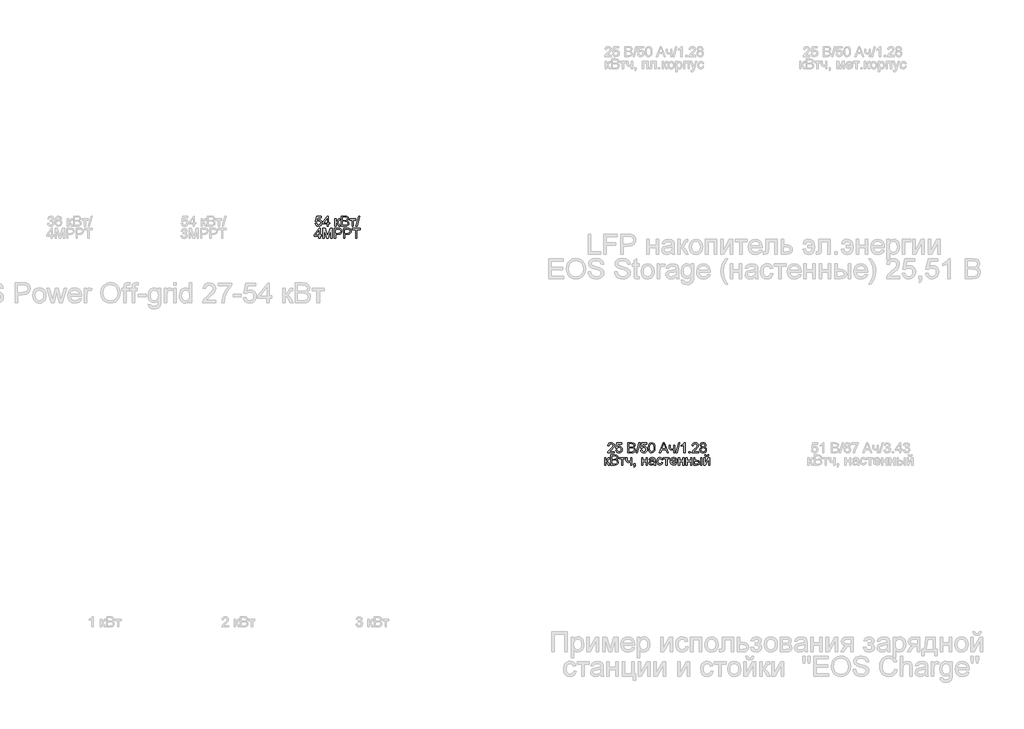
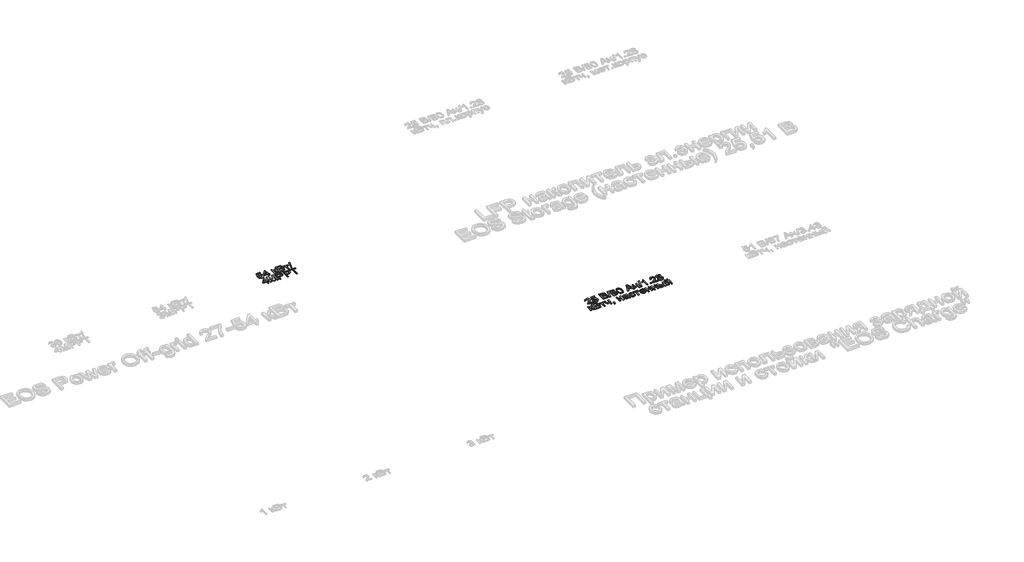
# One storey, part 14 of 26: 2 proxies.
"""IFC4 building model written with IfcOpenShell, lengths in millimetres."""

from ifc_helpers import new_model, si_unit, origin, origin_with_axes, place, context, project, spatial, polyline, outline, extrude, element, save

model = new_model("IFC4")

# Units and contexts
model_context = context("Model", 3, world=origin())
ifc_project = project(units=[si_unit("LENGTHUNIT", "METRE", prefix="MILLI")], contexts=[model_context])

# Site, building, storey
site = spatial("IfcSite", under=ifc_project)
building = spatial("IfcBuilding", under=site)
storey = spatial("IfcBuildingStorey", under=building, Name="Этаж 01", Elevation=0.0)

# Proxies
placement = place(None, origin())
element("IfcBuildingElementProxy", 1, Name="75 мм Arial", ObjectType="75 мм Arial", at=placement, inside=storey, context=model_context, shape_type="SweptSolid", body=[
    extrude(outline(polyline([(12207.5585542, -16641.5042258), (12216.9763333, -16640.3270034), (12221.722011, -16650.029891), (12231.5628544, -16653.2764496), (12243.3718664, -16648.7606981), (12247.5841153, -16636.7769421), (12243.6385809, -16625.5933295), (12231.7100072, -16621.4914452), (12223.4418593, -16623.1285201), (12218.1535557, -16627.3775572), (12208.7357766, -16626.2003348), (12216.9763333, -16587.3519961), (12253.4702272, -16587.3519961), (12253.4702272, -16596.7697752), (12224.5914906, -16596.7697752), (12220.5631827, -16617.5183197), (12234.3403634, -16612.0736662), (12243.1396409, -16613.7613248), (12250.4443978, -16618.8243008), (12255.3625202, -16626.5406256), (12257.0018943, -16636.188331), (12255.5257678, -16645.60611), (12251.0973883, -16653.6627257), (12242.6177083, -16660.436353), (12231.5260662, -16662.6942287), (12222.2761333, -16661.2433941), (12214.9069971, -16656.8908902), (12209.8555174, -16650.1425549), (12207.5585542, -16641.5042258)])), origin_with_axes(), (0.0, 0.0, 1.0), 5.0),
    extrude(outline(polyline([(12295.850233, -16661.5170063), (12295.850233, -16643.8586706), (12261.7107839, -16643.8586706), (12261.7107839, -16634.4408915), (12298.2046778, -16587.3519961), (12305.2680121, -16587.3519961), (12305.2680121, -16634.4408915), (12314.6857912, -16634.4408915), (12314.6857912, -16643.8586706), (12305.2680121, -16643.8586706), (12305.2680121, -16661.5170063), (12295.850233, -16661.5170063)]), holes=[polyline([(12295.850233, -16634.4408915), (12295.850233, -16605.3414257), (12273.2990667, -16634.4408915), (12295.850233, -16634.4408915)])]), origin_with_axes(), (0.0, 0.0, 1.0), 5.0),
    extrude(outline(polyline([(12354.7113523, -16606.1875542), (12364.1291313, -16606.1875542), (12364.1291313, -16629.7320019), (12370.4383076, -16628.0397448), (12375.6070496, -16618.1805073), (12379.9020719, -16609.6732362), (12383.6912564, -16606.9049241), (12390.5798468, -16606.1875542), (12392.3824686, -16606.1875542), (12392.3824686, -16615.6605156), (12389.8440828, -16615.6053333), (12385.2455579, -16616.5986147), (12382.0081963, -16622.7974263), (12378.2098147, -16629.5020757), (12372.8847228, -16632.7854225), (12384.6569467, -16644.1713703), (12394.7369133, -16661.5170063), (12384.0315473, -16661.5170063), (12374.1539157, -16644.5392522), (12369.1875088, -16637.3563563), (12364.1291313, -16635.6181139), (12364.1291313, -16661.5170063), (12354.7113523, -16661.5170063), (12354.7113523, -16606.1875542)])), origin_with_axes(), (0.0, 0.0, 1.0), 5.0),
    extrude(outline(polyline([(12401.8002476, -16661.5170063), (12401.8002476, -16586.1747737), (12430.5502256, -16586.1747737), (12444.6309089, -16588.3912627), (12452.945042, -16595.2062767), (12455.9524773, -16604.844785), (12453.4232886, -16613.6463617), (12445.7805402, -16620.3142229), (12455.0603635, -16627.340769), (12458.3069221, -16639.0578105), (12456.0904331, -16649.1837624), (12450.5997943, -16656.3942495), (12442.4052229, -16660.2202223), (12430.3294964, -16661.5170063), (12401.8002476, -16661.5170063)]), holes=[polyline([(12411.2180267, -16616.7825557), (12428.41651, -16616.7825557), (12438.4596885, -16615.9732153), (12444.5021502, -16612.4875334), (12446.5346983, -16606.3531011), (12444.640106, -16600.2094718), (12439.2138466, -16596.5766371), (12427.1105289, -16595.5925528), (12411.2180267, -16595.5925528), (12411.2180267, -16616.7825557)]), polyline([(12411.2180267, -16652.0992272), (12430.5318315, -16652.0992272), (12437.5215894, -16651.7313453), (12443.4352925, -16649.6804031), (12447.3532357, -16645.4957454), (12448.889143, -16639.149781), (12447.0865213, -16631.8289293), (12441.2463946, -16627.4603306), (12429.6121265, -16626.2003348), (12411.2180267, -16626.2003348), (12411.2180267, -16652.0992272)])]), origin_with_axes(), (0.0, 0.0, 1.0), 5.0),
    extrude(outline(polyline([(12465.3702564, -16606.1875542), (12510.104707, -16606.1875542), (12510.104707, -16615.6053333), (12492.4463713, -16615.6053333), (12492.4463713, -16661.5170063), (12483.0285922, -16661.5170063), (12483.0285922, -16615.6053333), (12465.3702564, -16615.6053333), (12465.3702564, -16606.1875542)])), origin_with_axes(), (0.0, 0.0, 1.0), 5.0),
    extrude(outline(polyline([(12511.2819294, -16661.5170063), (12532.4719323, -16586.1747737), (12540.9700064, -16586.1747737), (12519.7800035, -16661.5170063), (12511.2819294, -16661.5170063)])), origin_with_axes(), (0.0, 0.0, 1.0), 5.0),
    extrude(outline(polyline([(12234.0460578, -16752.9981197), (12234.0460578, -16735.3397839), (12199.9066087, -16735.3397839), (12199.9066087, -16725.9220049), (12236.4005026, -16678.8331095), (12243.4638369, -16678.8331095), (12243.4638369, -16725.9220049), (12252.881616, -16725.9220049), (12252.881616, -16735.3397839), (12243.4638369, -16735.3397839), (12243.4638369, -16752.9981197), (12234.0460578, -16752.9981197)]), holes=[polyline([(12234.0460578, -16725.9220049), (12234.0460578, -16696.822539), (12211.4948915, -16725.9220049), (12234.0460578, -16725.9220049)])]), origin_with_axes(), (0.0, 0.0, 1.0), 5.0),
    extrude(outline(polyline([(12264.6538398, -16752.9981197), (12264.6538398, -16677.6558871), (12280.8590417, -16677.6558871), (12296.2732973, -16730.7596531), (12299.3819002, -16741.8512953), (12302.7480204, -16729.8399481), (12317.9047586, -16677.6558871), (12334.1099605, -16677.6558871), (12334.1099605, -16752.9981197), (12324.6921815, -16752.9981197), (12324.6921815, -16687.0736662), (12305.7646528, -16752.9981197), (12292.9991476, -16752.9981197), (12274.0716189, -16687.0736662), (12274.0716189, -16752.9981197), (12264.6538398, -16752.9981197)])), origin_with_axes(), (0.0, 0.0, 1.0), 5.0),
    extrude(outline(polyline([(12350.5910739, -16752.9981197), (12350.5910739, -16677.6558871), (12378.5133174, -16677.6558871), (12389.7705064, -16678.373257), (12398.921571, -16681.8957271), (12404.8536682, -16689.1797906), (12407.0977484, -16699.4528953), (12405.5825344, -16708.332647), (12401.0368925, -16715.7316736), (12392.5365192, -16720.7256717), (12379.1571108, -16722.3903377), (12360.008853, -16722.3903377), (12360.008853, -16752.9981197), (12350.5910739, -16752.9981197)]), holes=[polyline([(12360.008853, -16712.9725586), (12379.7089338, -16712.9725586), (12393.5780851, -16709.5144679), (12397.6799693, -16699.7839891), (12395.2611452, -16691.9848908), (12388.9059837, -16687.7174597), (12379.4882046, -16687.0736662), (12360.008853, -16687.0736662), (12360.008853, -16712.9725586)])]), origin_with_axes(), (0.0, 0.0, 1.0), 5.0),
    extrude(outline(polyline([(12420.0471946, -16752.9981197), (12420.0471946, -16677.6558871), (12447.969438, -16677.6558871), (12459.2266271, -16678.373257), (12468.3776917, -16681.8957271), (12474.3097889, -16689.1797906), (12476.5538691, -16699.4528953), (12475.0386551, -16708.332647), (12470.4930132, -16715.7316736), (12461.9926398, -16720.7256717), (12448.6132315, -16722.3903377), (12429.4649737, -16722.3903377), (12429.4649737, -16752.9981197), (12420.0471946, -16752.9981197)]), holes=[polyline([(12429.4649737, -16712.9725586), (12449.1650545, -16712.9725586), (12463.0342057, -16709.5144679), (12467.13609, -16699.7839891), (12464.7172659, -16691.9848908), (12458.3621044, -16687.7174597), (12448.9443253, -16687.0736662), (12429.4649737, -16687.0736662), (12429.4649737, -16712.9725586)])]), origin_with_axes(), (0.0, 0.0, 1.0), 5.0),
    extrude(outline(polyline([(12508.3388735, -16752.9981197), (12508.3388735, -16687.0736662), (12483.6172034, -16687.0736662), (12483.6172034, -16677.6558871), (12542.4783226, -16677.6558871), (12542.4783226, -16687.0736662), (12517.7566525, -16687.0736662), (12517.7566525, -16752.9981197), (12508.3388735, -16752.9981197)])), origin_with_axes(), (0.0, 0.0, 1.0), 5.0),
])
element("IfcBuildingElementProxy", 2, Name="75 мм Arial", ObjectType="75 мм Arial", at=placement, inside=storey, context=model_context, shape_type="SweptSolid", body=[
    extrude(outline(polyline([(14443.1901427, -18345.2842708), (14443.1901427, -18354.7020499), (14393.7468026, -18354.7020499), (14394.7584781, -18348.2089327), (14400.4790431, -18338.2117395), (14412.269661, -18327.2948413), (14428.5300452, -18311.6046742), (14432.5951413, -18300.9360963), (14428.7599715, -18292.3000665), (14418.7443842, -18288.7775964), (14408.3057325, -18292.217293), (14404.341804, -18301.7270426), (14394.924025, -18300.5498202), (14397.2071926, -18291.4401423), (14402.1437091, -18284.7860767), (14409.4760571, -18280.7163821), (14418.9467193, -18279.3598173), (14428.4863592, -18280.8681335), (14435.8049117, -18285.393082), (14440.4609182, -18292.1529137), (14442.0129204, -18300.3658792), (14440.3390573, -18309.2962146), (14434.7748421, -18318.5300527), (14421.2827699, -18331.4335137), (14410.4486452, -18340.4926078), (14406.1996081, -18345.2842708), (14443.1901427, -18345.2842708)])), origin_with_axes(), (0.0, 0.0, 1.0), 5.0),
    extrude(outline(polyline([(14452.6079218, -18334.6892694), (14462.0257009, -18333.512047), (14466.7713786, -18343.2149346), (14476.612222, -18346.4614932), (14488.421234, -18341.9457417), (14492.6334829, -18329.9619857), (14488.6879485, -18318.7783731), (14476.7593748, -18314.6764888), (14468.491227, -18316.3135637), (14463.2029233, -18320.5626007), (14453.7851442, -18319.3853784), (14462.0257009, -18280.5370397), (14498.5195948, -18280.5370397), (14498.5195948, -18289.9548187), (14469.6408582, -18289.9548187), (14465.6125503, -18310.7033633), (14479.3897311, -18305.2587097), (14488.1890085, -18306.9463684), (14495.4937654, -18312.0093444), (14500.4118878, -18319.7256692), (14502.051262, -18329.3733745), (14500.5751355, -18338.7911536), (14496.1467559, -18346.8477693), (14487.667076, -18353.6213965), (14476.5754338, -18355.8792723), (14467.3255009, -18354.4284377), (14459.9563647, -18350.0759338), (14454.904885, -18343.3275985), (14452.6079218, -18334.6892694)])), origin_with_axes(), (0.0, 0.0, 1.0), 5.0),
    extrude(outline(polyline([(14543.2540454, -18354.7020499), (14543.2540454, -18279.3598173), (14572.0040233, -18279.3598173), (14586.0847067, -18281.5763063), (14594.3988398, -18288.3913203), (14597.4062751, -18298.0298285), (14594.8770864, -18306.8314053), (14587.2343379, -18313.4992664), (14596.5141613, -18320.5258125), (14599.7607199, -18332.2428541), (14597.5442309, -18342.368806), (14592.0535921, -18349.5792931), (14583.8590206, -18353.4052659), (14571.7832942, -18354.7020499), (14543.2540454, -18354.7020499)]), holes=[polyline([(14552.6718245, -18309.9675993), (14569.8703078, -18309.9675993), (14579.9134862, -18309.1582589), (14585.955948, -18305.672577), (14587.988496, -18299.5381447), (14586.0939038, -18293.3945154), (14580.6676443, -18289.7616807), (14568.5643267, -18288.7775964), (14552.6718245, -18288.7775964), (14552.6718245, -18309.9675993)]), polyline([(14552.6718245, -18345.2842708), (14571.9856292, -18345.2842708), (14578.9753872, -18344.9163888), (14584.8890902, -18342.8654467), (14588.8070335, -18338.680789), (14590.3429408, -18332.3348246), (14588.540319, -18325.0139729), (14582.7001924, -18320.6453742), (14571.0659243, -18319.3853784), (14552.6718245, -18319.3853784), (14552.6718245, -18345.2842708)])]), origin_with_axes(), (0.0, 0.0, 1.0), 5.0),
    extrude(outline(polyline([(14604.4696094, -18354.7020499), (14625.6596123, -18279.3598173), (14634.1576864, -18279.3598173), (14612.9676835, -18354.7020499), (14604.4696094, -18354.7020499)])), origin_with_axes(), (0.0, 0.0, 1.0), 5.0),
    extrude(outline(polyline([(14638.6090586, -18334.6892694), (14648.0268377, -18333.512047), (14652.7725154, -18343.2149346), (14662.6133588, -18346.4614932), (14674.4223708, -18341.9457417), (14678.6346196, -18329.9619857), (14674.6890853, -18318.7783731), (14662.7605116, -18314.6764888), (14654.4923637, -18316.3135637), (14649.20406, -18320.5626007), (14639.786281, -18319.3853784), (14648.0268377, -18280.5370397), (14684.5207316, -18280.5370397), (14684.5207316, -18289.9548187), (14655.641995, -18289.9548187), (14651.6136871, -18310.7033633), (14665.3908678, -18305.2587097), (14674.1901453, -18306.9463684), (14681.4949022, -18312.0093444), (14686.4130246, -18319.7256692), (14688.0523987, -18329.3733745), (14686.5762722, -18338.7911536), (14682.1478927, -18346.8477693), (14673.6682127, -18353.6213965), (14662.5765706, -18355.8792723), (14653.3266376, -18354.4284377), (14645.9575014, -18350.0759338), (14640.9060218, -18343.3275985), (14638.6090586, -18334.6892694)])), origin_with_axes(), (0.0, 0.0, 1.0), 5.0),
    extrude(outline(polyline([(14696.2929554, -18317.6379389), (14699.0612674, -18295.9604923), (14707.28343, -18283.4617015), (14721.0146255, -18279.3598173), (14732.0142972, -18281.7878385), (14739.6110604, -18288.7867934), (14744.0256443, -18299.9336179), (14745.7362956, -18317.6379389), (14742.9955747, -18339.223415), (14734.8010033, -18351.7497969), (14721.0146255, -18355.8792723), (14711.2289644, -18354.0858476), (14703.7977481, -18348.7055734), (14698.1691536, -18335.9630608), (14696.2929554, -18317.6379389)]), holes=[polyline([(14705.7107345, -18317.6195448), (14706.8143805, -18332.4336929), (14710.1253184, -18341.0076426), (14721.0146255, -18346.4614932), (14731.9039326, -18340.9892485), (14735.2148705, -18332.4107003), (14736.3185165, -18317.6195448), (14732.0510853, -18294.4981614), (14720.9042609, -18288.7775964), (14710.2724712, -18293.8175797), (14706.8511687, -18302.9962355), (14705.7107345, -18317.6195448)])]), origin_with_axes(), (0.0, 0.0, 1.0), 5.0),
    extrude(outline(polyline([(14778.1650934, -18354.7020499), (14808.2394466, -18279.3598173), (14816.259274, -18279.3598173), (14846.3336272, -18354.7020499), (14836.3824192, -18354.7020499), (14827.7555864, -18331.1576022), (14796.7247401, -18331.1576022), (14788.1163014, -18354.7020499), (14778.1650934, -18354.7020499)]), holes=[polyline([(14800.1828309, -18321.7398231), (14824.3158897, -18321.7398231), (14817.5284669, -18303.2169647), (14812.2493603, -18288.7775964), (14807.5588649, -18301.5982839), (14800.1828309, -18321.7398231)])]), origin_with_axes(), (0.0, 0.0, 1.0), 5.0),
    extrude(outline(polyline([(14851.6863102, -18299.3725978), (14861.1040893, -18299.3725978), (14861.1040893, -18309.9859934), (14861.8674444, -18319.9372014), (14865.5370673, -18325.3266726), (14872.8211308, -18327.6259351), (14885.8257593, -18324.7748496), (14885.8257593, -18299.3725978), (14895.2435384, -18299.3725978), (14895.2435384, -18354.7020499), (14885.8257593, -18354.7020499), (14885.8257593, -18333.8063526), (14870.3011391, -18337.0437141), (14859.6233642, -18333.6683968), (14853.3417792, -18325.400249), (14851.6863102, -18314.6397006), (14851.6863102, -18299.3725978)])), origin_with_axes(), (0.0, 0.0, 1.0), 5.0),
    extrude(outline(polyline([(14902.3068727, -18354.7020499), (14923.4968756, -18279.3598173), (14931.9949497, -18279.3598173), (14910.8049468, -18354.7020499), (14902.3068727, -18354.7020499)])), origin_with_axes(), (0.0, 0.0, 1.0), 5.0),
    extrude(outline(polyline([(14971.7629934, -18354.7020499), (14962.3452143, -18354.7020499), (14962.3452143, -18295.9880835), (14953.4240759, -18302.3432449), (14943.5096562, -18307.0981197), (14943.5096562, -18298.1953754), (14957.314428, -18289.3846017), (14965.6929405, -18279.3598173), (14971.7629934, -18279.3598173), (14971.7629934, -18354.7020499)])), origin_with_axes(), (0.0, 0.0, 1.0), 5.0),
    extrude(outline(polyline([(14998.8391083, -18354.7020499), (14998.8391083, -18345.2842708), (15008.2568873, -18345.2842708), (15008.2568873, -18354.7020499), (14998.8391083, -18354.7020499)])), origin_with_axes(), (0.0, 0.0, 1.0), 5.0),
    extrude(outline(polyline([(15071.8268961, -18345.2842708), (15071.8268961, -18354.7020499), (15022.3835559, -18354.7020499), (15023.3952314, -18348.2089327), (15029.1157965, -18338.2117395), (15040.9064144, -18327.2948413), (15057.1667986, -18311.6046742), (15061.2318946, -18300.9360963), (15057.3967248, -18292.3000665), (15047.3811375, -18288.7775964), (15036.9424859, -18292.217293), (15032.9785574, -18301.7270426), (15023.5607783, -18300.5498202), (15025.843946, -18291.4401423), (15030.7804625, -18284.7860767), (15038.1128105, -18280.7163821), (15047.5834726, -18279.3598173), (15057.1231126, -18280.8681335), (15064.441665, -18285.393082), (15069.0976715, -18292.1529137), (15070.6496737, -18300.3658792), (15068.9758106, -18309.2962146), (15063.4115955, -18318.5300527), (15049.9195233, -18331.4335137), (15039.0853985, -18340.4926078), (15034.8363615, -18345.2842708), (15071.8268961, -18345.2842708)])), origin_with_axes(), (0.0, 0.0, 1.0), 5.0),
    extrude(outline(polyline([(15094.9666736, -18313.2049608), (15086.3858261, -18307.3556371), (15083.5991199, -18298.2505577), (15085.1166332, -18290.8883193), (15089.6691729, -18284.8044708), (15096.7463027, -18280.7209807), (15105.8375865, -18279.3598173), (15114.9840527, -18280.7531703), (15122.153153, -18284.9332295), (15126.7884662, -18291.113647), (15128.3335706, -18298.5080751), (15125.5836526, -18307.3832283), (15117.2419284, -18313.2049608), (15127.2575157, -18320.5901919), (15130.6880153, -18332.776283), (15128.9865611, -18341.7801948), (15123.8821984, -18349.2206082), (15116.0003267, -18354.2146063), (15105.9663452, -18355.8792723), (15095.9323638, -18354.2077085), (15088.0504921, -18349.193017), (15082.9461294, -18341.6813265), (15081.2446752, -18332.5187656), (15084.8131305, -18320.047566), (15094.9666736, -18313.2049608)]), holes=[polyline([(15093.016899, -18298.5264692), (15096.3554281, -18305.9208973), (15106.0767098, -18308.7903769), (15115.6048535, -18305.9392914), (15118.9157915, -18298.9495335), (15115.4944889, -18291.7114553), (15105.9663452, -18288.7775964), (15096.4106104, -18291.6470759), (15093.016899, -18298.5264692)]), polyline([(15090.6624542, -18332.1876718), (15092.2351498, -18339.2785972), (15097.799365, -18344.585295), (15106.0399216, -18346.4614932), (15117.2603225, -18342.5159588), (15121.2702362, -18332.4819774), (15117.1315638, -18322.2548579), (15105.727222, -18318.208156), (15094.6447768, -18322.1996756), (15090.6624542, -18332.1876718)])]), origin_with_axes(), (0.0, 0.0, 1.0), 5.0),
    extrude(outline(polyline([(14369.0251325, -18390.8537112), (14378.4429116, -18390.8537112), (14378.4429116, -18414.3981589), (14384.7520878, -18412.7059017), (14389.9208298, -18402.8466642), (14394.2158521, -18394.3393931), (14398.0050367, -18391.5710811), (14404.893627, -18390.8537112), (14406.6962488, -18390.8537112), (14406.6962488, -18400.3266726), (14404.157863, -18400.2714903), (14399.5593381, -18401.2647717), (14396.3219766, -18407.4635833), (14392.523595, -18414.1682327), (14387.1985031, -18417.4515795), (14398.9707269, -18428.8375272), (14409.0506936, -18446.1831633), (14398.3453275, -18446.1831633), (14388.467696, -18429.2054092), (14383.501289, -18422.0225132), (14378.4429116, -18420.2842708), (14378.4429116, -18446.1831633), (14369.0251325, -18446.1831633), (14369.0251325, -18390.8537112)])), origin_with_axes(), (0.0, 0.0, 1.0), 5.0),
    extrude(outline(polyline([(14416.1140279, -18446.1831633), (14416.1140279, -18370.8409307), (14444.8640058, -18370.8409307), (14458.9446892, -18373.0574197), (14467.2588223, -18379.8724337), (14470.2662576, -18389.5109419), (14467.7370689, -18398.3125187), (14460.0943204, -18404.9803798), (14469.3741437, -18412.0069259), (14472.6207024, -18423.7239675), (14470.4042133, -18433.8499194), (14464.9135746, -18441.0604065), (14456.7190031, -18444.8863792), (14444.6432766, -18446.1831633), (14416.1140279, -18446.1831633)]), holes=[polyline([(14425.531807, -18401.4487127), (14442.7302902, -18401.4487127), (14452.7734687, -18400.6393723), (14458.8159305, -18397.1536904), (14460.8484785, -18391.0192581), (14458.9538862, -18384.8756288), (14453.5276268, -18381.2427941), (14441.4243092, -18380.2587097), (14425.531807, -18380.2587097), (14425.531807, -18401.4487127)]), polyline([(14425.531807, -18436.7653842), (14444.8456117, -18436.7653842), (14451.8353696, -18436.3975022), (14457.7490727, -18434.3465601), (14461.6670159, -18430.1619024), (14463.2029233, -18423.815938), (14461.4003015, -18416.4950863), (14455.5601748, -18412.1264876), (14443.9259067, -18410.8664917), (14425.531807, -18410.8664917), (14425.531807, -18436.7653842)])]), origin_with_axes(), (0.0, 0.0, 1.0), 5.0),
    extrude(outline(polyline([(14479.6840367, -18390.8537112), (14524.4184873, -18390.8537112), (14524.4184873, -18400.2714903), (14506.7601515, -18400.2714903), (14506.7601515, -18446.1831633), (14497.3423724, -18446.1831633), (14497.3423724, -18400.2714903), (14479.6840367, -18400.2714903), (14479.6840367, -18390.8537112)])), origin_with_axes(), (0.0, 0.0, 1.0), 5.0),
    extrude(outline(polyline([(14529.1273768, -18390.8537112), (14538.5451559, -18390.8537112), (14538.5451559, -18401.4671068), (14539.308511, -18411.4183147), (14542.9781339, -18416.807786), (14550.2621974, -18419.1070484), (14563.266826, -18416.255963), (14563.266826, -18390.8537112), (14572.684605, -18390.8537112), (14572.684605, -18446.1831633), (14563.266826, -18446.1831633), (14563.266826, -18425.287466), (14547.7422058, -18428.5248275), (14537.0644309, -18425.1495102), (14530.7828458, -18416.8813624), (14529.1273768, -18406.120814), (14529.1273768, -18390.8537112)])), origin_with_axes(), (0.0, 0.0, 1.0), 5.0),
    extrude(outline(polyline([(14589.1657184, -18446.1831633), (14589.1657184, -18436.7653842), (14598.5834975, -18436.7653842), (14598.5834975, -18446.1831633), (14596.8912403, -18455.8124745), (14591.5201632, -18461.4870543), (14589.1657184, -18457.9553871), (14592.6238092, -18453.8902911), (14593.8562139, -18446.1831633), (14589.1657184, -18446.1831633)])), origin_with_axes(), (0.0, 0.0, 1.0), 5.0),
    extrude(outline(polyline([(14645.6723929, -18390.8537112), (14655.090172, -18390.8537112), (14655.090172, -18412.0437141), (14679.811842, -18412.0437141), (14679.811842, -18390.8537112), (14689.2296211, -18390.8537112), (14689.2296211, -18446.1831633), (14679.811842, -18446.1831633), (14679.811842, -18421.4614932), (14655.090172, -18421.4614932), (14655.090172, -18446.1831633), (14645.6723929, -18446.1831633), (14645.6723929, -18390.8537112)])), origin_with_axes(), (0.0, 0.0, 1.0), 5.0),
    extrude(outline(polyline([(14738.6729613, -18439.119829), (14729.5402907, -18445.5025816), (14719.451127, -18447.3603857), (14705.7751138, -18442.8906194), (14701.001845, -18431.4678835), (14702.8044667, -18424.0182731), (14707.5409474, -18418.6104077), (14714.1352322, -18415.520199), (14722.2838184, -18414.1038533), (14738.617779, -18410.8664917), (14738.6729613, -18408.7695644), (14736.0793932, -18401.8165947), (14725.6683327, -18399.0942679), (14716.1401891, -18400.9060867), (14711.5968464, -18407.3348246), (14702.1790673, -18406.1576022), (14706.2533604, -18396.9605523), (14714.4571289, -18391.5710811), (14726.8823433, -18389.6764888), (14738.2958822, -18391.3503519), (14744.7430142, -18395.5534037), (14747.6308878, -18401.9453534), (14748.0907403, -18410.1859101), (14748.0907403, -18421.9029516), (14748.5689869, -18438.2645033), (14750.4451851, -18446.1831633), (14741.027406, -18446.1831633), (14738.6729613, -18439.119829)]), holes=[polyline([(14738.6729613, -18420.2842708), (14723.4794349, -18423.1721445), (14715.3768339, -18424.6988548), (14711.707211, -18427.1820582), (14710.419624, -18430.8056959), (14713.2247242, -18435.9008615), (14721.4560839, -18437.9426066), (14730.9842276, -18435.6893294), (14737.1278569, -18430.2354788), (14738.617779, -18422.9514153), (14738.6729613, -18420.2842708)])]), origin_with_axes(), (0.0, 0.0, 1.0), 5.0),
    extrude(outline(polyline([(14796.3568581, -18426.1703827), (14805.7746372, -18427.3476051), (14798.2146622, -18442.0536879), (14783.2786532, -18447.3603857), (14773.2607666, -18445.5094794), (14765.4271794, -18439.9567605), (14760.3711012, -18430.9459509), (14758.6857418, -18418.7207723), (14761.5644184, -18403.0765905), (14770.338404, -18393.024215), (14783.1498945, -18389.6764888), (14797.4697011, -18394.2750138), (14804.5974148, -18407.3348246), (14795.1796357, -18408.512047), (14790.811037, -18401.4579097), (14783.2234709, -18399.0942679), (14772.3065727, -18403.7479751), (14768.1035209, -18418.4632549), (14772.2146022, -18433.3164905), (14782.9659535, -18437.9426066), (14791.8411066, -18435.0547329), (14796.3568581, -18426.1703827)])), origin_with_axes(), (0.0, 0.0, 1.0), 5.0),
    extrude(outline(polyline([(14809.3063043, -18390.8537112), (14854.040755, -18390.8537112), (14854.040755, -18400.2714903), (14836.3824192, -18400.2714903), (14836.3824192, -18446.1831633), (14826.9646401, -18446.1831633), (14826.9646401, -18400.2714903), (14809.3063043, -18400.2714903), (14809.3063043, -18390.8537112)])), origin_with_axes(), (0.0, 0.0, 1.0), 5.0),
    extrude(outline(polyline([(14901.0192857, -18429.7020499), (14910.2531238, -18430.8792723), (14901.617094, -18443.0377722), (14885.5314537, -18447.3603857), (14874.4811983, -18445.4956838), (14865.9785257, -18439.9015782), (14860.5568648, -18430.9413524), (14858.7496445, -18418.9782897), (14860.5752589, -18406.6128562), (14866.0521021, -18397.3652225), (14874.4398116, -18391.5986722), (14884.9980248, -18389.6764888), (14895.2274436, -18391.5940737), (14903.4013217, -18397.3468284), (14908.7609025, -18406.576068), (14910.5474294, -18418.9231074), (14910.4922471, -18421.4614932), (14868.1674236, -18421.4614932), (14873.5844859, -18433.6935695), (14885.7153947, -18437.9426066), (14894.9492328, -18435.9744379), (14901.0192857, -18429.7020499)]), holes=[polyline([(14868.1674236, -18412.0437141), (14901.1296503, -18412.0437141), (14897.3588599, -18403.5088518), (14884.9612366, -18399.0942679), (14873.3637567, -18402.616738), (14868.1674236, -18412.0437141)])]), origin_with_axes(), (0.0, 0.0, 1.0), 5.0),
    extrude(outline(polyline([(14919.9652085, -18390.8537112), (14929.3829876, -18390.8537112), (14929.3829876, -18412.0437141), (14954.1046576, -18412.0437141), (14954.1046576, -18390.8537112), (14963.5224367, -18390.8537112), (14963.5224367, -18446.1831633), (14954.1046576, -18446.1831633), (14954.1046576, -18421.4614932), (14929.3829876, -18421.4614932), (14929.3829876, -18446.1831633), (14919.9652085, -18446.1831633), (14919.9652085, -18390.8537112)])), origin_with_axes(), (0.0, 0.0, 1.0), 5.0),
    extrude(outline(polyline([(14977.6491053, -18390.8537112), (14987.0668844, -18390.8537112), (14987.0668844, -18412.0437141), (15011.7885545, -18412.0437141), (15011.7885545, -18390.8537112), (15021.2063336, -18390.8537112), (15021.2063336, -18446.1831633), (15011.7885545, -18446.1831633), (15011.7885545, -18421.4614932), (14987.0668844, -18421.4614932), (14987.0668844, -18446.1831633), (14977.6491053, -18446.1831633), (14977.6491053, -18390.8537112)])), origin_with_axes(), (0.0, 0.0, 1.0), 5.0),
    extrude(outline(polyline([(15087.1307871, -18390.8537112), (15096.5485662, -18390.8537112), (15096.5485662, -18446.1831633), (15087.1307871, -18446.1831633), (15087.1307871, -18390.8537112)])), origin_with_axes(), (0.0, 0.0, 1.0), 5.0),
    extrude(outline(polyline([(15035.3330022, -18390.8537112), (15044.7507812, -18390.8537112), (15044.7507812, -18410.8664917), (15056.3942464, -18410.8664917), (15073.9146264, -18415.5845783), (15078.5292462, -18421.197078), (15080.0674528, -18428.5984039), (15074.9079078, -18441.0236183), (15068.2055577, -18444.893277), (15058.4175974, -18446.1831633), (15035.3330022, -18446.1831633), (15035.3330022, -18390.8537112)]), holes=[polyline([(15044.7507812, -18436.7653842), (15054.4260777, -18436.7653842), (15066.9156715, -18434.7880185), (15070.6496737, -18428.616798), (15067.8813617, -18422.8226566), (15055.6584824, -18420.2842708), (15044.7507812, -18420.2842708), (15044.7507812, -18436.7653842)])]), origin_with_axes(), (0.0, 0.0, 1.0), 5.0),
    extrude(outline(polyline([(15110.6752348, -18390.8537112), (15120.0930139, -18390.8537112), (15120.0930139, -18433.0497761), (15143.2327914, -18390.8537112), (15155.4096854, -18390.8537112), (15155.4096854, -18446.1831633), (15145.9919063, -18446.1831633), (15145.9919063, -18404.2446158), (15122.9992816, -18446.1831633), (15110.6752348, -18446.1831633), (15110.6752348, -18390.8537112)])), origin_with_axes(), (0.0, 0.0, 1.0), 5.0),
    extrude(outline(polyline([(15141.2830168, -18370.8409307), (15148.3463511, -18370.8409307), (15143.7754173, -18381.3163705), (15133.6310713, -18384.9675993), (15122.6497937, -18381.3439616), (15117.7385691, -18370.8409307), (15124.8019034, -18370.8409307), (15127.4506538, -18376.1476284), (15132.7849427, -18377.904265), (15138.6342664, -18376.2028107), (15141.2830168, -18370.8409307)])), origin_with_axes(), (0.0, 0.0, 1.0), 5.0),
])

save(model, "model.ifc")
